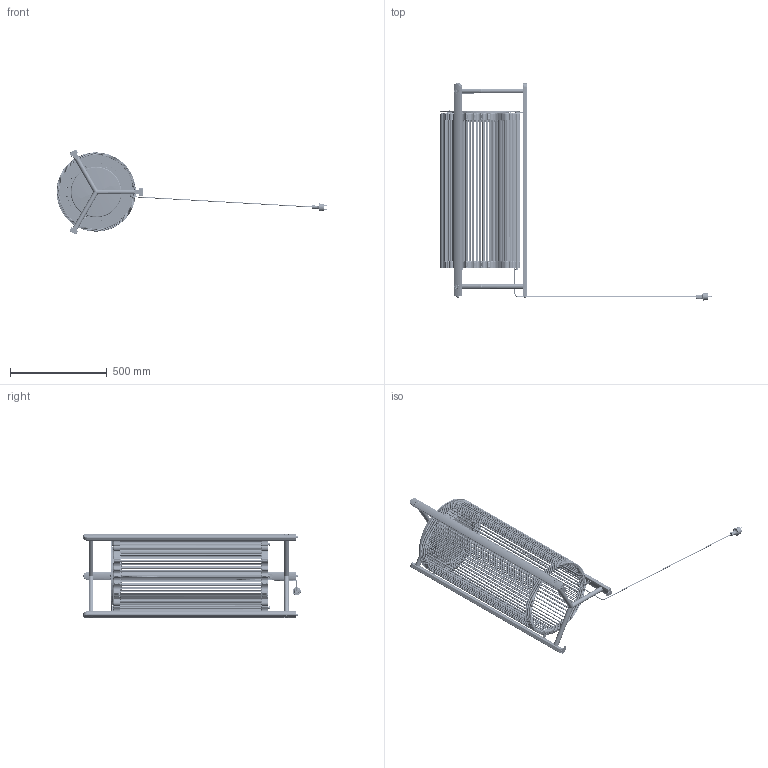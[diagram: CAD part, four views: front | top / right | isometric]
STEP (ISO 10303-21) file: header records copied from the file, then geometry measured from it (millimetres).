
FILE_DESCRIPTION (( 'STEP AP203' ), '1' );
FILE_NAME ('KANDO M-111 37802309300.STEP', '2023-07-27T07:36:04', ( '' ), ( '' ), 'SwSTEP 2.0', 'SolidWorks 2019', '' );
FILE_SCHEMA (( 'CONFIG_CONTROL_DESIGN' ));
Length unit declared in the file: millimetre
Products named in the file (45): 378_036; 378-401; 378_033; 908-024; D965-412A2; SUB-378 MASTIL 1100 SIMPLE; D913-36A2; TRAMA PANTALLA 800; 378_029; 378_028; D965-410A2; SUB-378 MASTIL 1100 LOGO; SUB-378 SOLDADURA SOPORTE PANTALLA; KANDO M-111 37802309300; insert_41_tbh050h100 m5x10; 378-409; 378_413; 378-410; 378_061; 378_026; 378-407; D7991-58; 378_044; 378_032; 378_034; 378-XXX PAQUETE OPTICO CV_CC; insert_41_tbh080h130 m8x13; 914-052; 378_101; 378_060; 378_037; 378_048; SUB-378 ASA Y SOPORTE INFERIOR; 378_CABLE 1100; 914-026; 378_031; 378_027; 378_023; 378-412
Assembly tree (118 placements, depth 4):
  KANDO M-111 37802309300
    SUB-378 MASTIL 1100 LOGO
      378_027
      SUB-378 SOLDADURA SOPORTE PANTALLA
        378_029
        378_031
      SUB-378 SOLDADURA SOPORTE PANTALLA
        378_029
        378_031
      insert_41_tbh050h100 m5x10  x4
      insert_41_tbh080h130 m8x13
      D7991-58  x4
      378_028
      378_023
      378_032
      378_036  x2
    SUB-378 MASTIL 1100 SIMPLE
      378_026
      SUB-378 SOLDADURA SOPORTE PANTALLA
        378_029
        378_031
      SUB-378 SOLDADURA SOPORTE PANTALLA
        378_029
        378_031
      insert_41_tbh050h100 m5x10  x4
      insert_41_tbh080h130 m8x13
      D7991-58  x4
      378_028
      378_032
      378_036  x2
    SUB-378 MASTIL 1100 SIMPLE
      378_026
      SUB-378 SOLDADURA SOPORTE PANTALLA
        378_029
        378_031
      SUB-378 SOLDADURA SOPORTE PANTALLA
        378_029
        378_031
      insert_41_tbh050h100 m5x10  x4
      insert_41_tbh080h130 m8x13
      D7991-58  x4
      378_028
      378_032
      378_036  x2
    SUB-378 ASA Y SOPORTE INFERIOR
      378_033
      378_034  x3
      378_037  x3
    378_044  x3
    378_CABLE 1100
    378_037  x3
    378_048
    378_060  x3
    D913-36A2  x3
    378_413  x3
    378_061  x2
    914-026  x2
    378_101
    TRAMA PANTALLA 800
    378-XXX PAQUETE OPTICO CV_CC
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Bounding box: 1401.5 x 1123.73 x 437.38 mm (x, y, z)
Volume: 7065310 mm3; surface area: 3618663.2 mm2
Topology: 476 solids, 479 shells, 13618 faces, 34392 edges, 19886 vertices
Faces by surface type: cylinder 5661, plane 3949, sphere 2130, cone 1474, bspline 304, torus 100
Entity records: 293906 total; most frequent: CARTESIAN_POINT 88037, ORIENTED_EDGE 43008, DIRECTION 42128, EDGE_CURVE 21510, AXIS2_PLACEMENT_3D 17287, VERTEX_POINT 12713, EDGE_LOOP 9477, ADVANCED_FACE 9137
